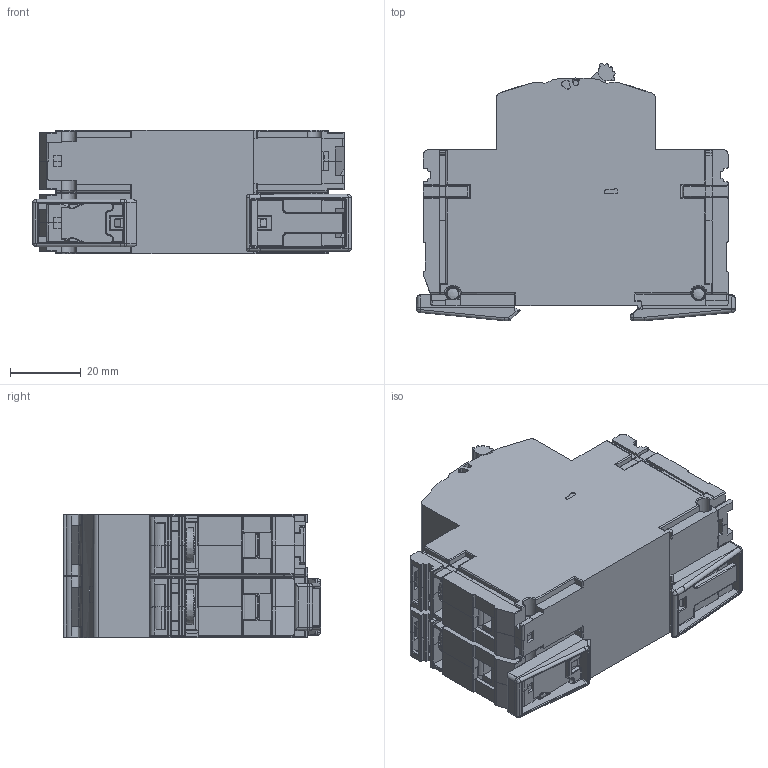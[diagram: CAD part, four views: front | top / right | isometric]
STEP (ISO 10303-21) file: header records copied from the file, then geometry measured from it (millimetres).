
FILE_DESCRIPTION (( 'STEP AP214' ), '1' );
FILE_NAME ('LPN-2_zj2.step', '2013-06-24T09:21:17', ( 'Siemens' ), ( 'Siemens' ), 'SwSTEP 2.0', 'SolidWorks 2011', '' );
FILE_SCHEMA (( 'AUTOMOTIVE_DESIGN' ));
Length unit declared in the file: millimetre
Products named in the file (1): LPN-2_zj2
Bounding box: 90.21 x 72.92 x 35.08 mm (x, y, z)
Volume: 151542.1 mm3; surface area: 34699.4 mm2
Topology: 1 solids, 7 shells, 3171 faces, 8994 edges, 5719 vertices
Faces by surface type: plane 1731, cylinder 982, torus 193, bspline 139, cone 69, sphere 57
Entity records: 154660 total; most frequent: CARTESIAN_POINT 43641, ORIENTED_EDGE 17808, DIRECTION 12908, EDGE_CURVE 8904, VERTEX_POINT 5716, LINE 5504, VECTOR 5504, AXIS2_PLACEMENT_3D 3702
